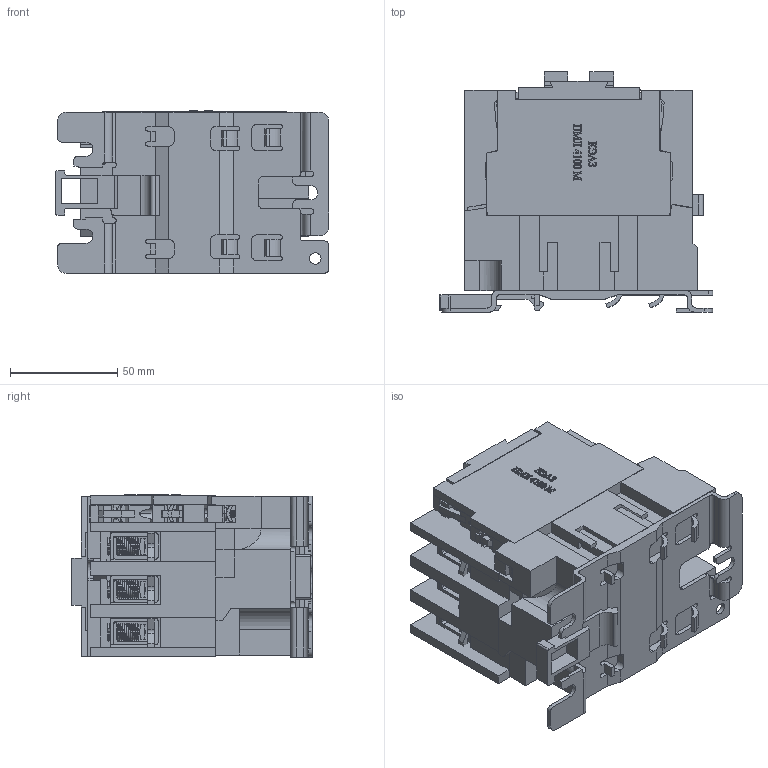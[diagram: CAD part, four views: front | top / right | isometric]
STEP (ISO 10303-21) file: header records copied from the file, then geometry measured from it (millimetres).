
FILE_DESCRIPTION (( 'STEP AP214' ), '1' );
FILE_NAME ('Ñ ìàðêèðîâêîé 4100 Ì.STEP', '2015-06-16T10:12:34', ( 'admin' ), ( '' ), 'SwSTEP 2.0', 'SolidWorks 2012', '' );
FILE_SCHEMA (( 'AUTOMOTIVE_DESIGN' ));
Length unit declared in the file: millimetre
Products named in the file (16): 枟謤麃鍒罻; ìàëåíüêàÿ øàéáà; êðåïëåíèå; ìàëåíüêèé âèíò; Ìàë êîíòàêò; 鼁闉罻 膹樦鍱歑糈蠈錪; 瀔凞樖罻; Âèíò êëåìîäåðæàòåëÿ; êîíòàêò; 膹樦鍱歑糈蠈錪; øàéáà êëåìîäåðæàòåëÿ; Ñ ìàðêèðîâêîé 4100 Ì; çàùèòêà 2 2; 扻豵鵨; 闃膼瘔; êðûøêà
Assembly tree (27 placements, depth 3):
  Ñ ìàðêèðîâêîé 4100 Ì
    闃膼瘔
    扻豵鵨
    êðûøêà
    êðåïëåíèå
    鼁闉罻 膹樦鍱歑糈蠈錪  x6
      Âèíò êëåìîäåðæàòåëÿ
      膹樦鍱歑糈蠈錪
      øàéáà êëåìîäåðæàòåëÿ
      êîíòàêò
    瀔凞樖罻
    çàùèòêà 2 2  x2
    Ìàë êîíòàêò  x7
      ìàëåíüêèé âèíò
      ìàëåíüêàÿ øàéáà
    枟謤麃鍒罻
Bounding box: 127.29 x 112 x 75.64 mm (x, y, z)
Volume: 670181.2 mm3; surface area: 144956 mm2
Topology: 64 solids, 64 shells, 2015 faces, 5615 edges, 3720 vertices
Faces by surface type: plane 1166, cylinder 502, bspline 228, cone 119
Entity records: 47500 total; most frequent: CARTESIAN_POINT 20398, ORIENTED_EDGE 5938, DIRECTION 4787, EDGE_CURVE 2969, LINE 2221, VECTOR 2221, VERTEX_POINT 1968, AXIS2_PLACEMENT_3D 1283
